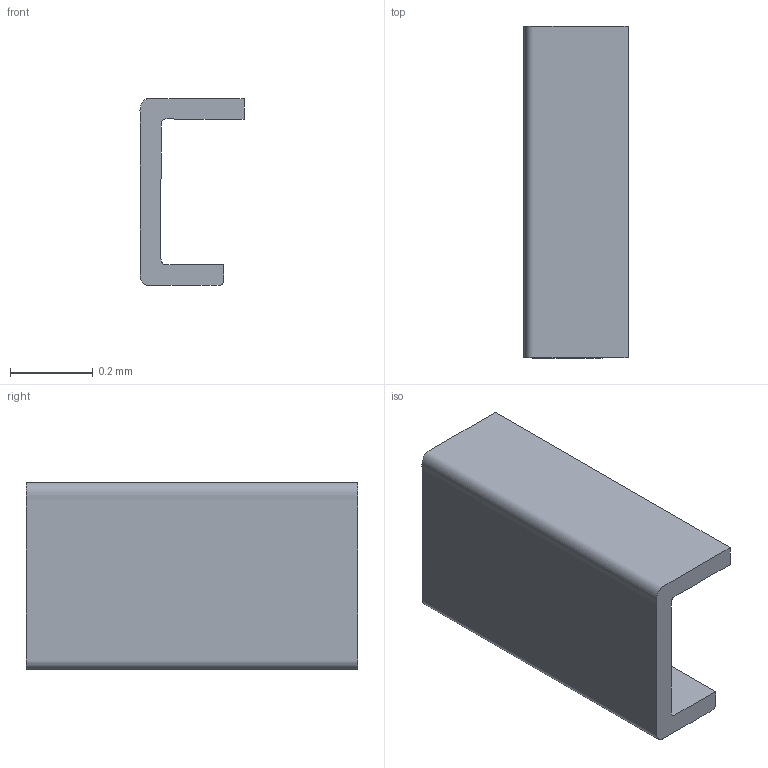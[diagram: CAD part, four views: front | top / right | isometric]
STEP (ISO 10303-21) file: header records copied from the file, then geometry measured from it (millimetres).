
FILE_DESCRIPTION(/* description */ ('STEP AP242 Edition 2','CAx-IF Rec.Pracs.---Representation and Presentation of Product Manufacturing Information (PMI)---4.0---2014-10-13','CAx-IF Rec.Pracs.---3D Tessellated Geometry---0.4---2014-09-14','2;1','CAx-IF Rec.Pracs.---User Defined Attributes---1.5---2016-08-15'),/* implementation_level */ '2;1');
FILE_NAME(/* name */ 'Drone Layout - Surface 393',/* time_stamp */ '2026-10-04T22:22:58Z',/* author */ (''),/* organization */ (''),/* preprocessor_version */ 'ST-DEVELOPER v20',/* originating_system */ 'ONSHAPE BY PTC INC, 1.221',/* authorisation */ ' ');
FILE_SCHEMA (('AP242_MANAGED_MODEL_BASED_3D_ENGINEERING_MIM_LF { 1 0 10303 442 3 1 4 }'));
Length unit declared in the file: metre
Products named in the file (1): RES0603 v1:1__Body4
Bounding box: 0.25 x 0.8 x 0.45 mm (x, y, z)
Volume: 0 mm3; surface area: 1.4 mm2
Topology: 1 solids, 1 shells, 6 faces, 12 edges, 8 vertices
Faces by surface type: plane 3, bspline 3
Entity records: 281 total; most frequent: CARTESIAN_POINT 164, ORIENTED_EDGE 24, EDGE_CURVE 12, DIRECTION 12, VERTEX_POINT 8, B_SPLINE_CURVE_WITH_KNOTS 8, EDGE_LOOP 6, FACE_BOUND 6
